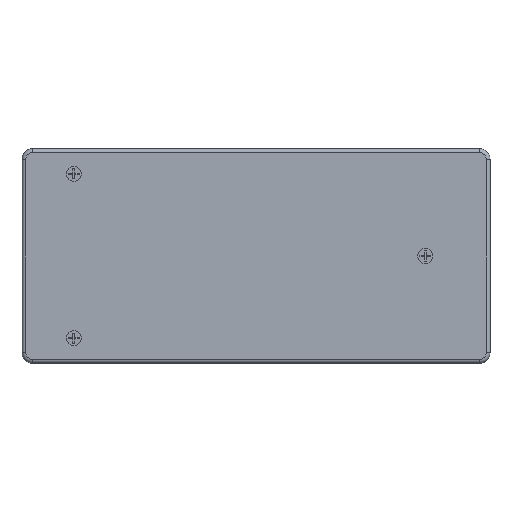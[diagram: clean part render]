
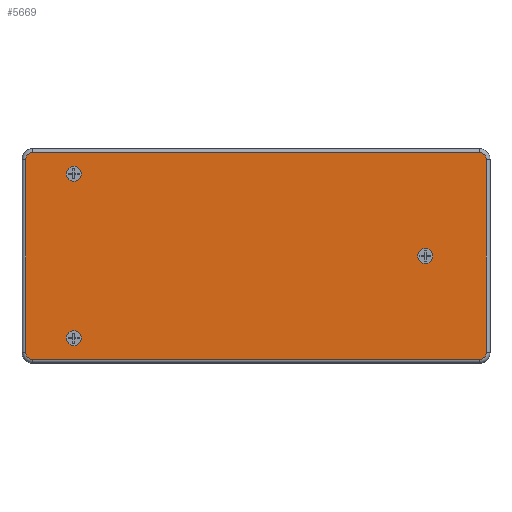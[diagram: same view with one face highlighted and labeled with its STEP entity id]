
A CAD part, front view. The second image highlights one B-rep face of the part: STEP entity #5669.
In plain terms, the highlighted planar face has unit normal (0, -1, 0).
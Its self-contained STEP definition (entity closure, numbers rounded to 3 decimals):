
#78 = EDGE_LOOP ( 'NONE', ( #6326, #6982 ) ) ;
#100 = CIRCLE ( 'NONE', #1729, 2.1 ) ;
#322 = ORIENTED_EDGE ( 'NONE', *, *, #8890, .T. ) ;
#577 = EDGE_CURVE ( 'NONE', #6516, #4611, #7275, .T. ) ;
#687 = EDGE_CURVE ( 'NONE', #4860, #918, #8299, .T. ) ;
#714 = CARTESIAN_POINT ( 'NONE',  ( -51., -22., -25.1 ) ) ;
#748 = EDGE_LOOP ( 'NONE', ( #7088, #4687 ) ) ;
#826 = CARTESIAN_POINT ( 'NONE',  ( -51., -22., 25.1 ) ) ;
#918 = VERTEX_POINT ( 'NONE', #714 ) ;
#1093 = CARTESIAN_POINT ( 'NONE',  ( -62.5, -22., -29. ) ) ;
#1136 = VERTEX_POINT ( 'NONE', #5272 ) ;
#1151 = FACE_BOUND ( 'NONE', #8795, .T. ) ;
#1291 = VECTOR ( 'NONE', #3610, 1000. ) ;
#1538 = AXIS2_PLACEMENT_3D ( 'NONE', #3825, #7619, #9227 ) ;
#1662 = VECTOR ( 'NONE', #4229, 1000. ) ;
#1729 = AXIS2_PLACEMENT_3D ( 'NONE', #9095, #9156, #5804 ) ;
#1741 = PLANE ( 'NONE',  #4037 ) ;
#1775 = VERTEX_POINT ( 'NONE', #826 ) ;
#2184 = EDGE_CURVE ( 'NONE', #918, #4860, #2772, .T. ) ;
#2453 = VERTEX_POINT ( 'NONE', #2765 ) ;
#2481 = CARTESIAN_POINT ( 'NONE',  ( -51., -22., 20.9 ) ) ;
#2484 = DIRECTION ( 'NONE',  ( 0., 0., -1. ) ) ;
#2765 = CARTESIAN_POINT ( 'NONE',  ( -62.5, -22., 29. ) ) ;
#2772 = CIRCLE ( 'NONE', #6074, 2.1 ) ;
#2793 = AXIS2_PLACEMENT_3D ( 'NONE', #7593, #7965, #7902 ) ;
#2819 = CARTESIAN_POINT ( 'NONE',  ( -51., -22., 23. ) ) ;
#2829 = DIRECTION ( 'NONE',  ( 0., -1., 0. ) ) ;
#2888 = ORIENTED_EDGE ( 'NONE', *, *, #3407, .T. ) ;
#2907 = CIRCLE ( 'NONE', #3241, 2.1 ) ;
#2915 = CIRCLE ( 'NONE', #4602, 2.1 ) ;
#3189 = VERTEX_POINT ( 'NONE', #3342 ) ;
#3241 = AXIS2_PLACEMENT_3D ( 'NONE', #7037, #8471, #9195 ) ;
#3276 = EDGE_CURVE ( 'NONE', #4611, #3351, #5191, .T. ) ;
#3296 = CARTESIAN_POINT ( 'NONE',  ( -51., -22., -20.9 ) ) ;
#3342 = CARTESIAN_POINT ( 'NONE',  ( 64.5, -22., -27. ) ) ;
#3351 = VERTEX_POINT ( 'NONE', #1093 ) ;
#3407 = EDGE_CURVE ( 'NONE', #3351, #1136, #7868, .T. ) ;
#3610 = DIRECTION ( 'NONE',  ( 0., 0., 1. ) ) ;
#3641 = CARTESIAN_POINT ( 'NONE',  ( 62.5, -22., -27. ) ) ;
#3662 = EDGE_CURVE ( 'NONE', #1136, #3189, #4493, .T. ) ;
#3758 = DIRECTION ( 'NONE',  ( 0., -1., 0. ) ) ;
#3825 = CARTESIAN_POINT ( 'NONE',  ( 47.4, -22., 0. ) ) ;
#3889 = CARTESIAN_POINT ( 'NONE',  ( -62.5, -22., 29. ) ) ;
#3909 = AXIS2_PLACEMENT_3D ( 'NONE', #8508, #8480, #4074 ) ;
#3915 = VERTEX_POINT ( 'NONE', #2481 ) ;
#3985 = CARTESIAN_POINT ( 'NONE',  ( 64.5, -22., 27. ) ) ;
#4037 = AXIS2_PLACEMENT_3D ( 'NONE', #8364, #4391, #7248 ) ;
#4074 = DIRECTION ( 'NONE',  ( 0., 0., -1. ) ) ;
#4229 = DIRECTION ( 'NONE',  ( -1., 0., 0. ) ) ;
#4250 = CARTESIAN_POINT ( 'NONE',  ( -62.5, -22., 27. ) ) ;
#4281 = CARTESIAN_POINT ( 'NONE',  ( -64.5, -22., 27. ) ) ;
#4391 = DIRECTION ( 'NONE',  ( 0., -1., 0. ) ) ;
#4436 = DIRECTION ( 'NONE',  ( 0., 0., -1. ) ) ;
#4493 = CIRCLE ( 'NONE', #9144, 2. ) ;
#4511 = EDGE_CURVE ( 'NONE', #4854, #6197, #5376, .T. ) ;
#4519 = CIRCLE ( 'NONE', #3909, 2. ) ;
#4582 = DIRECTION ( 'NONE',  ( 0., 0., -1. ) ) ;
#4602 = AXIS2_PLACEMENT_3D ( 'NONE', #2819, #2829, #2484 ) ;
#4611 = VERTEX_POINT ( 'NONE', #7970 ) ;
#4687 = ORIENTED_EDGE ( 'NONE', *, *, #687, .F. ) ;
#4796 = FACE_BOUND ( 'NONE', #78, .T. ) ;
#4854 = VERTEX_POINT ( 'NONE', #7380 ) ;
#4860 = VERTEX_POINT ( 'NONE', #3296 ) ;
#4938 = VERTEX_POINT ( 'NONE', #9025 ) ;
#5156 = LINE ( 'NONE', #6482, #1291 ) ;
#5191 = CIRCLE ( 'NONE', #5646, 2. ) ;
#5224 = CARTESIAN_POINT ( 'NONE',  ( -62.5, -22., -29. ) ) ;
#5272 = CARTESIAN_POINT ( 'NONE',  ( 62.5, -22., -29. ) ) ;
#5297 = VECTOR ( 'NONE', #7505, 1000. ) ;
#5376 = CIRCLE ( 'NONE', #1538, 2.1 ) ;
#5405 = DIRECTION ( 'NONE',  ( 0., 0., -1. ) ) ;
#5413 = VERTEX_POINT ( 'NONE', #3985 ) ;
#5646 = AXIS2_PLACEMENT_3D ( 'NONE', #7203, #3758, #5405 ) ;
#5669 = ADVANCED_FACE ( 'NONE', ( #4796, #7382, #1151, #6706 ), #1741, .T. ) ;
#5728 = EDGE_LOOP ( 'NONE', ( #322, #5818, #6188, #6009, #8705, #8585, #2888, #7347 ) ) ;
#5748 = CARTESIAN_POINT ( 'NONE',  ( -64.5, -22., 27. ) ) ;
#5804 = DIRECTION ( 'NONE',  ( 0., 0., -1. ) ) ;
#5818 = ORIENTED_EDGE ( 'NONE', *, *, #7155, .T. ) ;
#6009 = ORIENTED_EDGE ( 'NONE', *, *, #8857, .T. ) ;
#6074 = AXIS2_PLACEMENT_3D ( 'NONE', #6181, #7300, #4582 ) ;
#6144 = DIRECTION ( 'NONE',  ( 0., -1., 0. ) ) ;
#6181 = CARTESIAN_POINT ( 'NONE',  ( -51., -22., -23. ) ) ;
#6188 = ORIENTED_EDGE ( 'NONE', *, *, #7758, .T. ) ;
#6197 = VERTEX_POINT ( 'NONE', #9082 ) ;
#6199 = EDGE_CURVE ( 'NONE', #1775, #3915, #100, .T. ) ;
#6326 = ORIENTED_EDGE ( 'NONE', *, *, #4511, .F. ) ;
#6482 = CARTESIAN_POINT ( 'NONE',  ( 64.5, -22., 27. ) ) ;
#6516 = VERTEX_POINT ( 'NONE', #4281 ) ;
#6706 = FACE_OUTER_BOUND ( 'NONE', #5728, .T. ) ;
#6794 = DIRECTION ( 'NONE',  ( 0., -1., 0. ) ) ;
#6895 = EDGE_CURVE ( 'NONE', #3915, #1775, #2915, .T. ) ;
#6982 = ORIENTED_EDGE ( 'NONE', *, *, #7390, .F. ) ;
#7037 = CARTESIAN_POINT ( 'NONE',  ( 47.4, -22., 0. ) ) ;
#7045 = VECTOR ( 'NONE', #7994, 1000. ) ;
#7088 = ORIENTED_EDGE ( 'NONE', *, *, #2184, .F. ) ;
#7155 = EDGE_CURVE ( 'NONE', #5413, #4938, #4519, .T. ) ;
#7203 = CARTESIAN_POINT ( 'NONE',  ( -62.5, -22., -27. ) ) ;
#7248 = DIRECTION ( 'NONE',  ( 0., 0., -1. ) ) ;
#7275 = LINE ( 'NONE', #5748, #7045 ) ;
#7300 = DIRECTION ( 'NONE',  ( 0., -1., 0. ) ) ;
#7347 = ORIENTED_EDGE ( 'NONE', *, *, #3662, .T. ) ;
#7380 = CARTESIAN_POINT ( 'NONE',  ( 47.4, -22., -2.1 ) ) ;
#7382 = FACE_BOUND ( 'NONE', #748, .T. ) ;
#7390 = EDGE_CURVE ( 'NONE', #6197, #4854, #2907, .T. ) ;
#7505 = DIRECTION ( 'NONE',  ( 1., 0., 0. ) ) ;
#7593 = CARTESIAN_POINT ( 'NONE',  ( -51., -22., -23. ) ) ;
#7619 = DIRECTION ( 'NONE',  ( 0., -1., 0. ) ) ;
#7758 = EDGE_CURVE ( 'NONE', #4938, #2453, #9122, .T. ) ;
#7868 = LINE ( 'NONE', #5224, #5297 ) ;
#7874 = DIRECTION ( 'NONE',  ( 0., 0., -1. ) ) ;
#7902 = DIRECTION ( 'NONE',  ( 0., 0., -1. ) ) ;
#7965 = DIRECTION ( 'NONE',  ( 0., -1., 0. ) ) ;
#7970 = CARTESIAN_POINT ( 'NONE',  ( -64.5, -22., -27. ) ) ;
#7994 = DIRECTION ( 'NONE',  ( 0., 0., -1. ) ) ;
#8299 = CIRCLE ( 'NONE', #2793, 2.1 ) ;
#8364 = CARTESIAN_POINT ( 'NONE',  ( -62.5, -22., 27. ) ) ;
#8471 = DIRECTION ( 'NONE',  ( 0., -1., 0. ) ) ;
#8480 = DIRECTION ( 'NONE',  ( 0., -1., 0. ) ) ;
#8508 = CARTESIAN_POINT ( 'NONE',  ( 62.5, -22., 27. ) ) ;
#8585 = ORIENTED_EDGE ( 'NONE', *, *, #3276, .T. ) ;
#8639 = AXIS2_PLACEMENT_3D ( 'NONE', #4250, #6794, #4436 ) ;
#8697 = ORIENTED_EDGE ( 'NONE', *, *, #6895, .F. ) ;
#8705 = ORIENTED_EDGE ( 'NONE', *, *, #577, .T. ) ;
#8795 = EDGE_LOOP ( 'NONE', ( #8697, #8941 ) ) ;
#8857 = EDGE_CURVE ( 'NONE', #2453, #6516, #8974, .T. ) ;
#8890 = EDGE_CURVE ( 'NONE', #3189, #5413, #5156, .T. ) ;
#8941 = ORIENTED_EDGE ( 'NONE', *, *, #6199, .F. ) ;
#8974 = CIRCLE ( 'NONE', #8639, 2. ) ;
#9025 = CARTESIAN_POINT ( 'NONE',  ( 62.5, -22., 29. ) ) ;
#9082 = CARTESIAN_POINT ( 'NONE',  ( 47.4, -22., 2.1 ) ) ;
#9095 = CARTESIAN_POINT ( 'NONE',  ( -51., -22., 23. ) ) ;
#9122 = LINE ( 'NONE', #3889, #1662 ) ;
#9144 = AXIS2_PLACEMENT_3D ( 'NONE', #3641, #6144, #7874 ) ;
#9156 = DIRECTION ( 'NONE',  ( 0., -1., 0. ) ) ;
#9195 = DIRECTION ( 'NONE',  ( 0., 0., -1. ) ) ;
#9227 = DIRECTION ( 'NONE',  ( 0., 0., -1. ) ) ;
